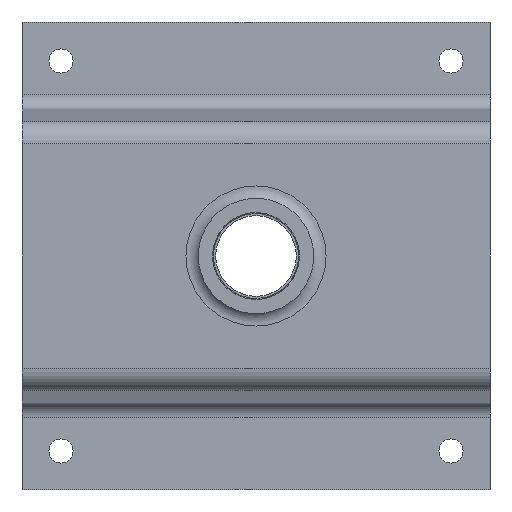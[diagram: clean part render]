
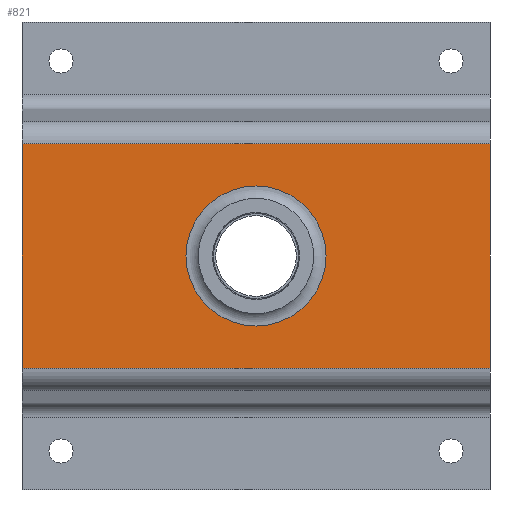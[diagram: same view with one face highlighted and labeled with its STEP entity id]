
A CAD part, left-side view. The second image highlights one B-rep face of the part: STEP entity #821.
In plain terms, the highlighted planar face has unit normal (-1, 0, 0).
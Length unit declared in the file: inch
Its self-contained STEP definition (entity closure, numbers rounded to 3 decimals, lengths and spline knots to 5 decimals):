
#27=LINE('',#1289,#71);
#34=LINE('',#1311,#78);
#54=LINE('',#1361,#98);
#57=LINE('',#1368,#101);
#71=VECTOR('',#1041,0.3937);
#78=VECTOR('',#1062,0.3937);
#98=VECTOR('',#1118,0.3937);
#101=VECTOR('',#1129,0.3937);
#117=PLANE('',#919);
#167=FACE_BOUND('',#290,.T.);
#218=FACE_OUTER_BOUND('',#289,.T.);
#289=EDGE_LOOP('',(#692,#693,#694,#695));
#290=EDGE_LOOP('',(#696));
#342=CIRCLE('',#881,1.375);
#392=VERTEX_POINT('',#1246);
#411=VERTEX_POINT('',#1286);
#412=VERTEX_POINT('',#1288);
#419=VERTEX_POINT('',#1308);
#420=VERTEX_POINT('',#1310);
#466=EDGE_CURVE('',#392,#392,#342,.T.);
#486=EDGE_CURVE('',#411,#412,#27,.T.);
#497=EDGE_CURVE('',#419,#420,#34,.T.);
#523=EDGE_CURVE('',#419,#412,#54,.T.);
#526=EDGE_CURVE('',#411,#420,#57,.T.);
#692=ORIENTED_EDGE('',*,*,#523,.T.);
#693=ORIENTED_EDGE('',*,*,#486,.F.);
#694=ORIENTED_EDGE('',*,*,#526,.T.);
#695=ORIENTED_EDGE('',*,*,#497,.F.);
#696=ORIENTED_EDGE('',*,*,#466,.T.);
#821=ADVANCED_FACE('',(#218,#167),#117,.T.);
#881=AXIS2_PLACEMENT_3D('',#1247,#1010,#1011);
#919=AXIS2_PLACEMENT_3D('',#1369,#1130,#1131);
#1010=DIRECTION('center_axis',(1.,0.,0.));
#1011=DIRECTION('ref_axis',(0.,0.,-1.));
#1041=DIRECTION('',(0.,0.,1.));
#1062=DIRECTION('',(0.,0.,-1.));
#1118=DIRECTION('',(0.,1.,0.));
#1129=DIRECTION('',(0.,-1.,0.));
#1130=DIRECTION('center_axis',(-1.,0.,0.));
#1131=DIRECTION('ref_axis',(0.,0.,1.));
#1246=CARTESIAN_POINT('',(24.06,0.,1.375));
#1247=CARTESIAN_POINT('Origin',(24.06,0.,0.));
#1286=CARTESIAN_POINT('',(24.06,6.,-2.87962));
#1288=CARTESIAN_POINT('',(24.06,6.,2.87962));
#1289=CARTESIAN_POINT('',(24.06,6.,3.40193));
#1308=CARTESIAN_POINT('',(24.06,-6.,2.87962));
#1310=CARTESIAN_POINT('',(24.06,-6.,-2.87962));
#1311=CARTESIAN_POINT('',(24.06,-6.,-3.40193));
#1361=CARTESIAN_POINT('',(24.06,-3.,2.87962));
#1368=CARTESIAN_POINT('',(24.06,3.,-2.87962));
#1369=CARTESIAN_POINT('Origin',(24.06,0.,0.));
